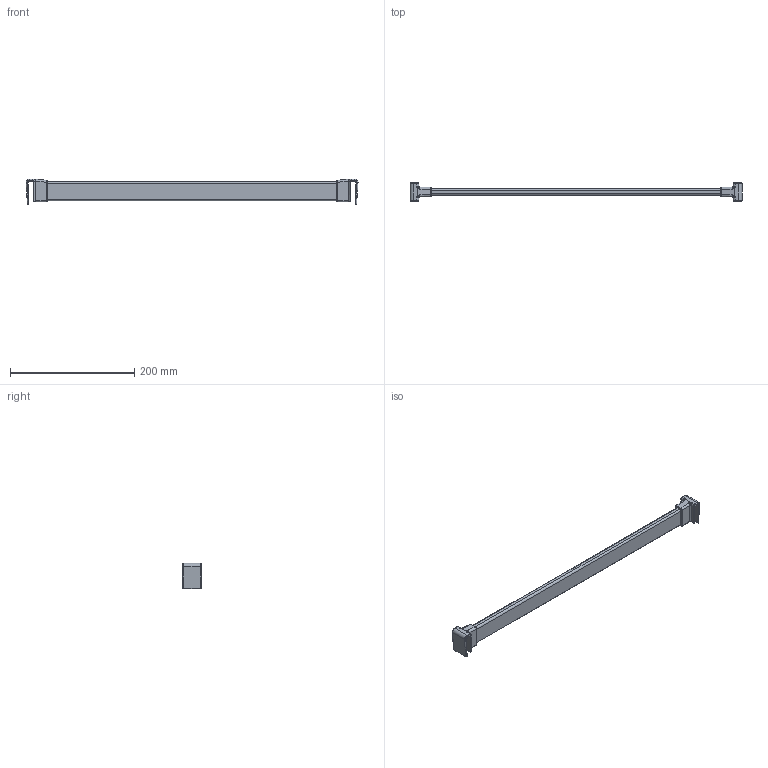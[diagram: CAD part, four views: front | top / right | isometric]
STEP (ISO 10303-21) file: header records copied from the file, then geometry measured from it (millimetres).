
FILE_DESCRIPTION (( 'STEP AP214' ), '1' );
FILE_NAME ('_Querreling_KAB-600_KS-19_P602_Glashalter.step', '2010-08-26T14:58:47', ( 'grass' ), ( '' ), 'SwSTEP 2.0', 'SolidWorks 2009', '' );
FILE_SCHEMA (( 'AUTOMOTIVE_DESIGN' ));
Length unit declared in the file: millimetre
Products named in the file (1): _Querreling_KAB-600_KS-19_P602_Glashalter
Bounding box: 534.78 x 30 x 41.5 mm (x, y, z)
Volume: 179231.5 mm3; surface area: 50013.9 mm2
Topology: 1 solids, 1 shells, 124 faces, 300 edges, 176 vertices
Faces by surface type: cylinder 58, plane 34, torus 16, bspline 12, sphere 4
Entity records: 5090 total; most frequent: CARTESIAN_POINT 2269, ORIENTED_EDGE 592, DIRECTION 590, EDGE_CURVE 296, AXIS2_PLACEMENT_3D 225, VERTEX_POINT 176, LINE 140, VECTOR 140
